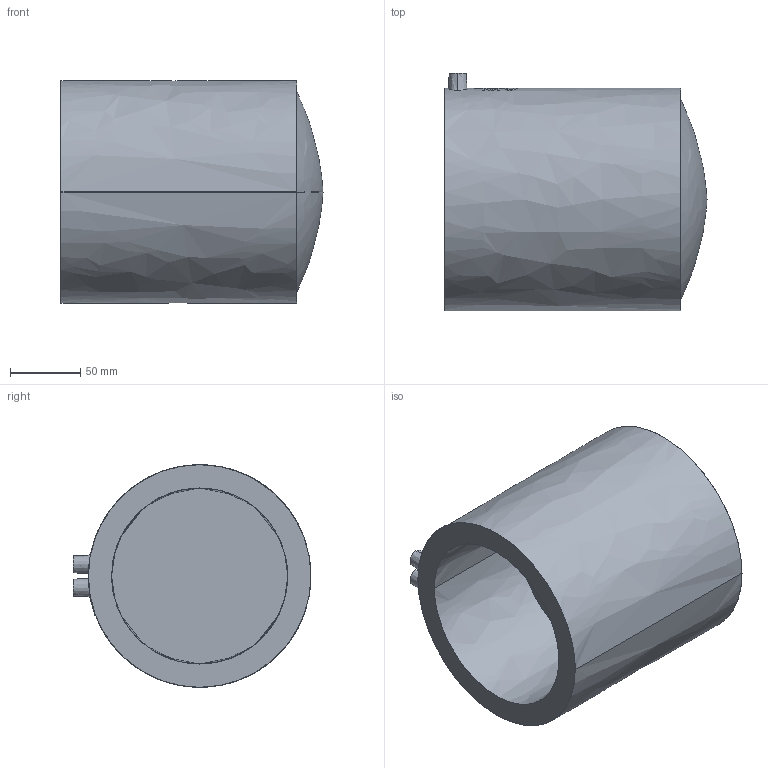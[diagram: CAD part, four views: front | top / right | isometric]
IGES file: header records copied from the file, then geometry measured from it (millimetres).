
Start section:  PTC IGES file: mv_d125.igs
Global section: file name: mv_d125.igs; native system: Pro/ENGINEER by Parametric Technology Corporation; preprocessor: 2006140; author: muellerc; organization: Unknown; date: 20060803.101326; units: millimetre
Bounding box: 186 x 168.9 x 158 mm (x, y, z)
Surface area: 157686.5 mm2 (no closed solid volume)
Topology: 0 solids, 0 shells, 53 faces, 325 edges, 330 vertices
Faces by surface type: bspline 53
